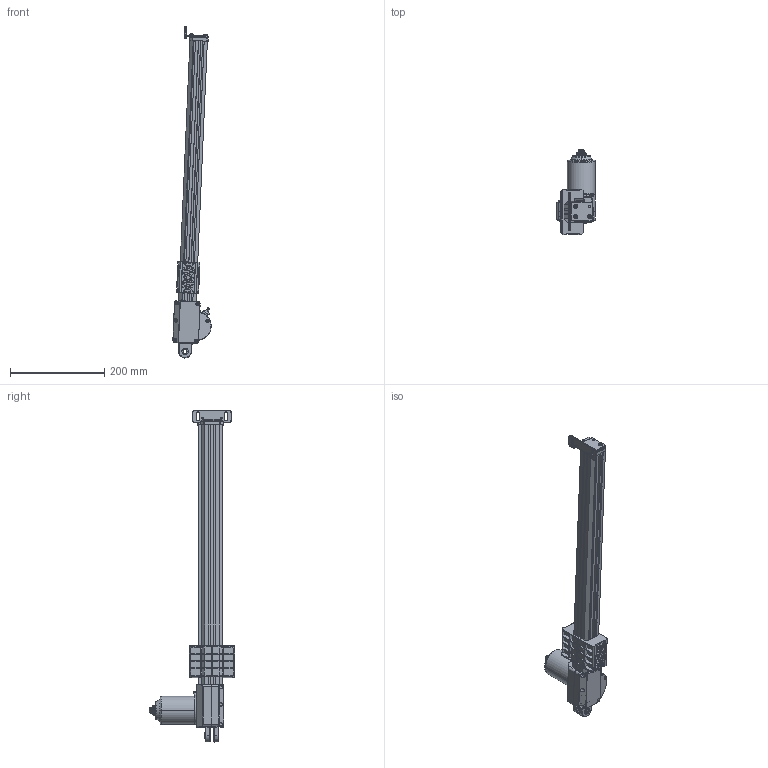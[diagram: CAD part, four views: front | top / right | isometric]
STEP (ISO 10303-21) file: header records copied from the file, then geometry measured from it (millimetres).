
FILE_DESCRIPTION((''),'2;1');
FILE_NAME('ASM0001_ASM','2023-05-24T',('USER'),(''),'PRO/ENGINEER BY PARAMETRIC TECHNOLOGY CORPORATION, 2008090','PRO/ENGINEER BY PARAMETRIC TECHNOLOGY CORPORATION, 2008090','');
FILE_SCHEMA(('CONFIG_CONTROL_DESIGN'));
Length unit declared in the file: millimetre
Products named in the file (3): PRT0003; PRT0004; ASM0001_ASM
Assembly tree (2 placements, depth 2):
  ASM0001_ASM
    PRT0003
    PRT0004
Bounding box: 81.32 x 180.8 x 704.83 mm (x, y, z)
Surface area: 501409 mm2 (no closed solid volume)
Topology: 0 solids, 14 shells, 2329 faces, 6403 edges, 4172 vertices
Faces by surface type: plane 1525, cylinder 541, torus 137, sphere 51, bspline 45, cone 22, extrusion 8
Entity records: 76543 total; most frequent: CARTESIAN_POINT 16251, ORIENTED_EDGE 12695, DIRECTION 12536, EDGE_CURVE 6366, VECTOR 4262, LINE 4254, VERTEX_POINT 4172, AXIS2_PLACEMENT_3D 4137
